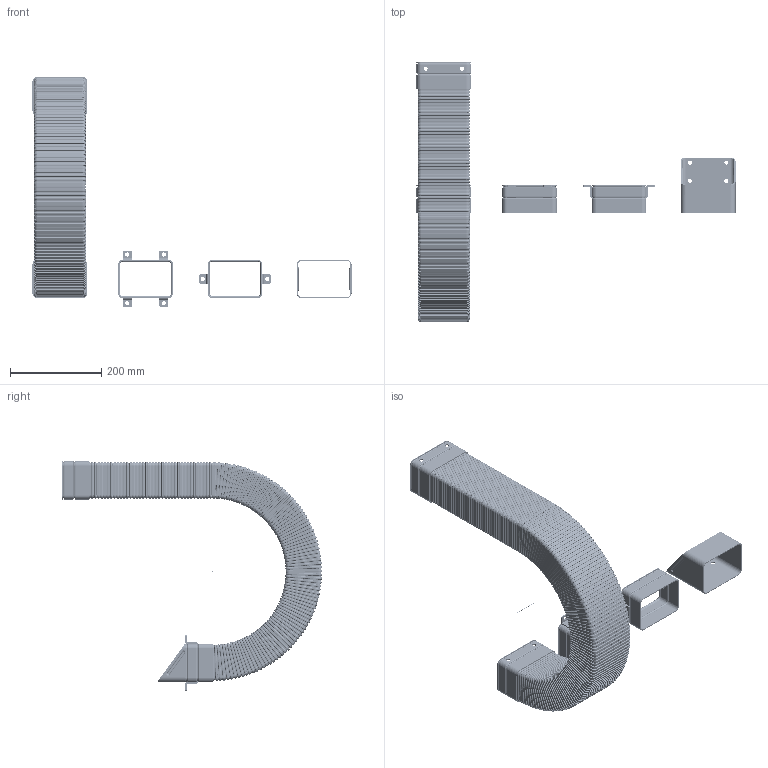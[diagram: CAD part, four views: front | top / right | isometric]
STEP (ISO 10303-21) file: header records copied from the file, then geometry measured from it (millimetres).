
FILE_DESCRIPTION((''),'2;1');
FILE_NAME('C:\Uebbing\PARAMETERKETTEN\SFK\SFK 32 H\SFK 32 H\SFK 32 H.stp','2012-04-12T12:21:05',('Uebbing'),(''),'Autodesk Inventor 10','Autodesk Inventor 10','');
FILE_SCHEMA(('AUTOMOTIVE_DESIGN { 1 0 10303 214 1 1 1 1 }'));
Length unit declared in the file: millimetre
Products named in the file (11): SFK 32 H STEP; Achse; SFK 32 H Rippe; SFK 32 H Anschluss N; SFK 32 H Anschluss A; Anschlusswinkel; Rändelmutter M6 flach; Imbusschraube M6x5 Senkkopf; SFK 32 H Anschluss B; SFK 32 H Schrägflansch
Assembly tree (156 placements, depth 3):
  SFK 32 H STEP
    Achse
    SFK 32 H Rippe  x130
    SFK 32 H Anschluss N  x2
    SFK 32 H Anschluss A
      SFK 32 H Anschluss N
      Anschlusswinkel  x4
      Rändelmutter M6 flach  x4
      Imbusschraube M6x5 Senkkopf  x4
    SFK 32 H Anschluss B
      SFK 32 H Anschluss B
      Anschlusswinkel  x2
      Rändelmutter M6 flach  x2
      Imbusschraube M6x5 Senkkopf  x2
    SFK 32 H Schrägflansch
Bounding box: 699.15 x 570 x 504 mm (x, y, z)
Volume: 752262.2 mm3; surface area: 1568752.1 mm2
Topology: 154 solids, 154 shells, 16018 faces, 35396 edges, 19973 vertices
Faces by surface type: cylinder 7679, plane 3953, bspline 2184, torus 2178, cone 24
Full cylindrical faces by diameter (mm): 1 x1, 6 x12, 6.5 x6, 9 x24, 9.2 x6, 11 x6, 12 x6
Entity records: 19107 total; most frequent: CARTESIAN_POINT 5824, DIRECTION 3026, ORIENTED_EDGE 2356, AXIS2_PLACEMENT_3D 1241, EDGE_CURVE 1178, VERTEX_POINT 694, EDGE_LOOP 610, CIRCLE 598
